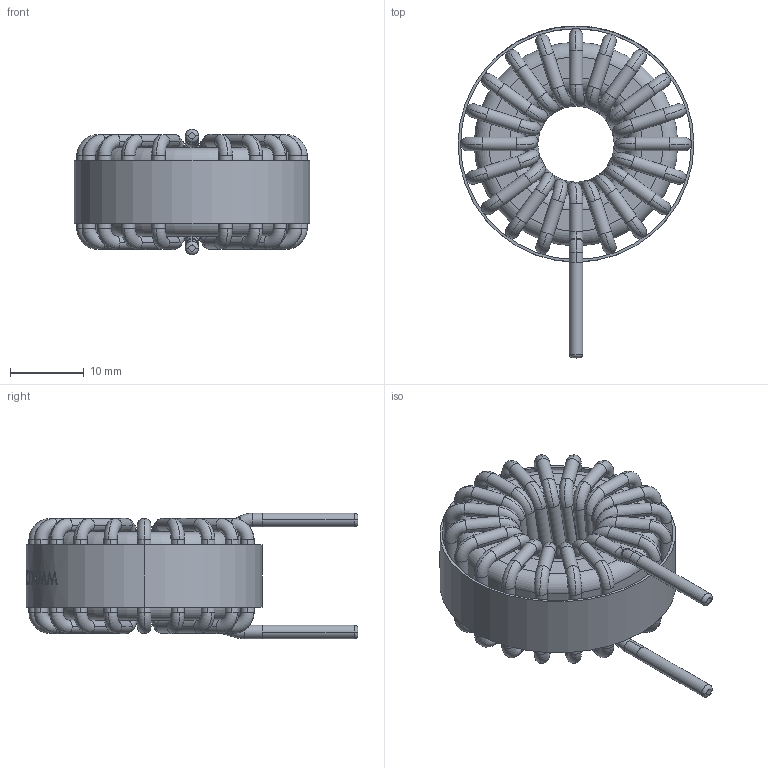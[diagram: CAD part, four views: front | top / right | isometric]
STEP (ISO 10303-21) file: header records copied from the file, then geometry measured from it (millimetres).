
FILE_DESCRIPTION (( 'STEP AP214' ), '1' );
FILE_NAME ('HF270-700M-20AV.STEP', '2022-01-11T12:07:24', ( '' ), ( '' ), 'SwSTEP 2.0', 'SolidWorks 2015', '' );
FILE_SCHEMA (( 'AUTOMOTIVE_DESIGN' ));
Length unit declared in the file: millimetre
Products named in the file (4): Core; Wrapper; Winding; HF270-700M-20AV
Assembly tree (3 placements, depth 2):
  HF270-700M-20AV
    Core
    Winding
    Wrapper
Bounding box: 32.1 x 45.15 x 17.07 mm (x, y, z)
Volume: 7661.1 mm3; surface area: 8912.2 mm2
Topology: 5 solids, 5 shells, 518 faces, 1442 edges, 950 vertices
Faces by surface type: cylinder 194, torus 176, bspline 103, plane 45
Entity records: 28886 total; most frequent: CARTESIAN_POINT 10193, ORIENTED_EDGE 2884, DIRECTION 2860, EDGE_CURVE 1442, AXIS2_PLACEMENT_3D 1331, VERTEX_POINT 950, CIRCLE 910, EDGE_LOOP 538
